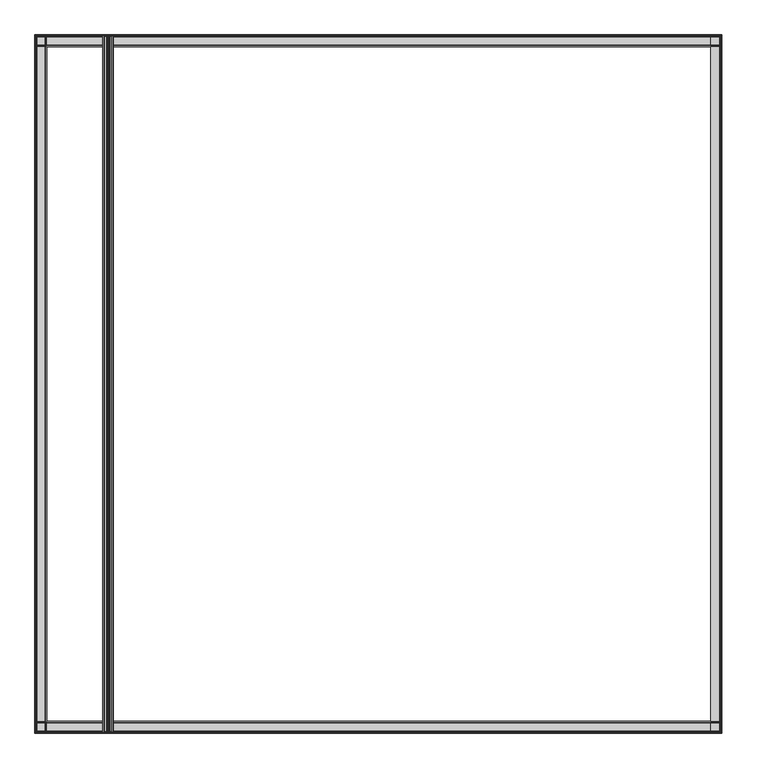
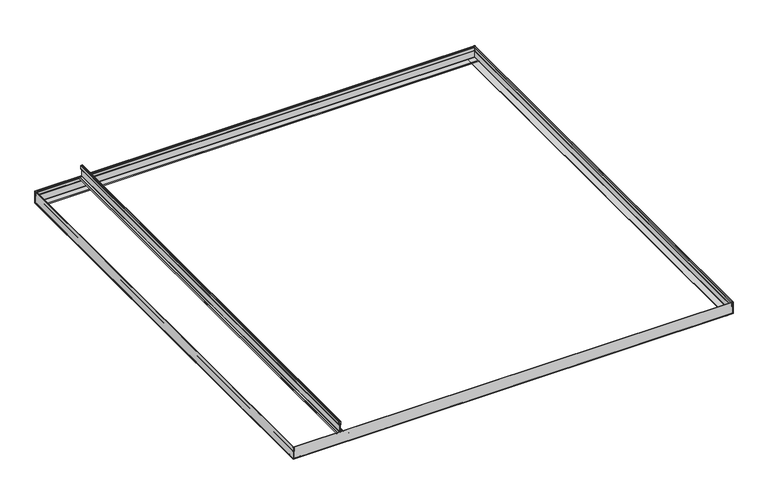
"""IFC4 building model written with IfcOpenShell, lengths in millimetres: proxy geometry, Maxxit_Highland-Ceiling_rev-01 : Maxxit_Highland-Ceiling_Duo."""

from ifc_helpers import new_model, si_unit, point, frame, frame_2d, origin, place, context, project, spatial, polyline, circle_curve, trimmed, segment, composite_curve, outline, extrude, source, transform, mapped, element, save


def generic_models_915ab235(model_context):
    return source(origin(), model_context, "Body", "SweptSolid", [
        extrude(outline(composite_curve([segment(trimmed(circle_curve(frame_2d((26.9918874, 1548.604153)), 1.3969852), [point((28.1400142, 1549.4))], [point((27.9797051, 1547.6163353))], False, "CARTESIAN"), True, "CONTINUOUS"), segment(polyline([(27.9797051, 1547.6163353), (26.0741329, 1545.7107631)]), True, "CONTINUOUS"), segment(trimmed(circle_curve(frame_2d((24.6239538, 1547.1609422)), 2.0508629), [point((26.0741329, 1545.7107631))], [point((24.5674668, 1545.1108573))], False, "CARTESIAN"), True, "CONTINUOUS"), segment(polyline([(24.5674668, 1545.1108573), (14.4241684, 1545.1108573)]), True, "CONTINUOUS"), segment(trimmed(circle_curve(frame_2d((14.4241684, 1546.536229)), 1.4253717), [point((14.4241684, 1545.1108573))], [point((13.0444237, 1546.1784735))], False, "CARTESIAN"), True, "CONTINUOUS"), segment(trimmed(circle_curve(frame_2d((17.0093343, 1546.8659327)), 4.0240672), [point((13.0444237, 1546.1784735))], [point((12.9936183, 1547.1250494))], False, "CARTESIAN"), True, "CONTINUOUS"), segment(trimmed(circle_curve(frame_2d((12.250676, 1547.0814586)), 0.74422), [point((12.9936183, 1547.1250494))], [point((12.3812724, 1547.8141304))], True, "CARTESIAN"), True, "CONTINUOUS"), segment(polyline([(12.3812724, 1547.8141304), (-12.3766547, 1547.8141304)]), True, "CONTINUOUS"), segment(trimmed(circle_curve(frame_2d((-12.3766547, 1546.8574461)), 0.9566843), [point((-12.3766547, 1547.8141304))], [point((-13.333339, 1546.8574461))], True, "CARTESIAN"), True, "CONTINUOUS"), segment(polyline([(-13.333339, 1546.8574461), (-13.333339, 1524.7673801), (-14.3530133, 1524.7673801), (-14.0306827, 1548.1396787)]), True, "CONTINUOUS"), segment(trimmed(circle_curve(frame_2d((-12.8937197, 1548.257)), 1.143), [point((-14.0306827, 1548.1396787))], [point((-12.8937197, 1549.4))], False, "CARTESIAN"), True, "CONTINUOUS"), segment(polyline([(-12.8937197, 1549.4), (28.1400142, 1549.4)]), True, "CONTINUOUS")], self_intersect=False), holes=[composite_curve([segment(trimmed(circle_curve(frame_2d((14.4235428, 1547.9667328)), 0.6350005), [point((14.4235428, 1548.6017333))], [point((13.7885423, 1547.9667328))], True, "CARTESIAN"), True, "CONTINUOUS"), segment(polyline([(13.7885423, 1547.9667328), (13.7885423, 1546.5441244)]), True, "CONTINUOUS"), segment(trimmed(circle_curve(frame_2d((14.4235428, 1546.5441244)), 0.6350005), [point((13.7885423, 1546.5441244))], [point((14.4235428, 1545.909124))], True, "CARTESIAN"), True, "CONTINUOUS"), segment(polyline([(14.4235428, 1545.909124), (24.5674668, 1545.909124)]), True, "CONTINUOUS"), segment(trimmed(circle_curve(frame_2d((24.5329325, 1547.4119671)), 1.5032399), [point((24.5674668, 1545.909124))], [point((25.5128669, 1546.2720291))], True, "CARTESIAN"), True, "CONTINUOUS"), segment(polyline([(25.5128669, 1546.2720291), (27.8425711, 1548.6017333), (14.4235428, 1548.6017333)]), True, "CONTINUOUS")], self_intersect=False)]), frame((0.0, -0.79375, 0.0), z_axis=(0.0, 1.0, 0.0), x_axis=(0.0, 0.0, 1.0)), (0.0, 0.0, 1.0), 1574.8),
        extrude(outline(composite_curve([segment(polyline([(1573.9762526, -14.9820313), (1549.2809145, -14.9820313)]), True, "CONTINUOUS"), segment(trimmed(circle_curve(frame_2d((1549.2809145, -13.4996755)), 1.4823557), [point((1549.2809145, -14.9820313))], [point((1549.6519555, -12.0645075))], False, "CARTESIAN"), True, "CONTINUOUS"), segment(polyline([(1549.6519555, -12.0645075), (1551.1781325, -12.4950092), (1550.9626417, -13.2589482), (1549.4464327, -12.8312583)]), True, "CONTINUOUS"), segment(trimmed(circle_curve(frame_2d((1549.2809145, -13.4996755)), 0.6886057), [point((1549.4464327, -12.8312583))], [point((1549.2809145, -14.1882813))], True, "CARTESIAN"), True, "CONTINUOUS"), segment(polyline([(1549.2809145, -14.1882813), (1573.9762526, -14.1882813), (1573.9762526, -14.9820313)]), True, "CONTINUOUS")], self_intersect=False)), frame((0.0, 0.0, 0.0), z_axis=(1.0, 0.0, 0.0), x_axis=(0.0, 1.0, 0.0)), (0.0, 0.0, 1.0), 1549.4),
        extrude(outline(composite_curve([segment(polyline([(1574.00625, 28.1400142), (1574.00625, -12.8937197)]), True, "CONTINUOUS"), segment(trimmed(circle_curve(frame_2d((1572.86325, -12.8937197)), 1.143), [point((1574.00625, -12.8937197))], [point((1572.7459287, -14.0306827))], False, "CARTESIAN"), True, "CONTINUOUS"), segment(polyline([(1572.7459287, -14.0306827), (1549.3736301, -14.3530133), (1549.3736301, -13.333339), (1571.4636961, -13.333339)]), True, "CONTINUOUS"), segment(trimmed(circle_curve(frame_2d((1571.4636961, -12.3766547)), 0.9566843), [point((1571.4636961, -13.333339))], [point((1572.4203804, -12.3766547))], True, "CARTESIAN"), True, "CONTINUOUS"), segment(polyline([(1572.4203804, -12.3766547), (1572.4203804, 12.3812724)]), True, "CONTINUOUS"), segment(trimmed(circle_curve(frame_2d((1571.6877086, 12.250676)), 0.74422), [point((1572.4203804, 12.3812724))], [point((1571.7312994, 12.9936183))], True, "CARTESIAN"), True, "CONTINUOUS"), segment(trimmed(circle_curve(frame_2d((1571.4721827, 17.0093343)), 4.0240672), [point((1571.7312994, 12.9936183))], [point((1570.7847235, 13.0444237))], False, "CARTESIAN"), True, "CONTINUOUS"), segment(trimmed(circle_curve(frame_2d((1571.142479, 14.4241684)), 1.4253717), [point((1570.7847235, 13.0444237))], [point((1569.7171073, 14.4241684))], False, "CARTESIAN"), True, "CONTINUOUS"), segment(polyline([(1569.7171073, 14.4241684), (1569.7171073, 24.5674668)]), True, "CONTINUOUS"), segment(trimmed(circle_curve(frame_2d((1571.7671922, 24.6239538)), 2.0508629), [point((1569.7171073, 24.5674668))], [point((1570.3170131, 26.0741329))], False, "CARTESIAN"), True, "CONTINUOUS"), segment(polyline([(1570.3170131, 26.0741329), (1572.2225853, 27.9797051)]), True, "CONTINUOUS"), segment(trimmed(circle_curve(frame_2d((1573.210403, 26.9918874)), 1.3969852), [point((1572.2225853, 27.9797051))], [point((1574.00625, 28.1400142))], False, "CARTESIAN"), True, "CONTINUOUS")], self_intersect=False), holes=[composite_curve([segment(polyline([(1573.2079833, 14.4235428), (1573.2079833, 27.8425711), (1570.8782791, 25.5128669)]), True, "CONTINUOUS"), segment(trimmed(circle_curve(frame_2d((1572.0182171, 24.5329325)), 1.5032399), [point((1570.8782791, 25.5128669))], [point((1570.515374, 24.5674668))], True, "CARTESIAN"), True, "CONTINUOUS"), segment(polyline([(1570.515374, 24.5674668), (1570.515374, 14.4235428)]), True, "CONTINUOUS"), segment(trimmed(circle_curve(frame_2d((1571.1503744, 14.4235428)), 0.6350005), [point((1570.515374, 14.4235428))], [point((1571.1503744, 13.7885423))], True, "CARTESIAN"), True, "CONTINUOUS"), segment(polyline([(1571.1503744, 13.7885423), (1572.5729828, 13.7885423)]), True, "CONTINUOUS"), segment(trimmed(circle_curve(frame_2d((1572.5729828, 14.4235428)), 0.6350005), [point((1572.5729828, 13.7885423))], [point((1573.2079833, 14.4235428))], True, "CARTESIAN"), True, "CONTINUOUS")], self_intersect=False)]), frame((0.0, 0.0, 0.0), z_axis=(1.0, 0.0, 0.0), x_axis=(0.0, 1.0, 0.0)), (0.0, 0.0, 1.0), 1549.4),
        extrude(outline(composite_curve([segment(polyline([(-14.9820313, 0.0299974), (-14.9820313, 24.7253355)]), True, "CONTINUOUS"), segment(trimmed(circle_curve(frame_2d((-13.4996755, 24.7253355)), 1.4823557), [point((-14.9820313, 24.7253355))], [point((-12.0645075, 24.3542945))], False, "CARTESIAN"), True, "CONTINUOUS"), segment(polyline([(-12.0645075, 24.3542945), (-12.4950092, 22.8281175), (-13.2589482, 23.0436083), (-12.8312583, 24.5598173)]), True, "CONTINUOUS"), segment(trimmed(circle_curve(frame_2d((-13.4996755, 24.7253355)), 0.6886057), [point((-12.8312583, 24.5598173))], [point((-14.1882813, 24.7253355))], True, "CARTESIAN"), True, "CONTINUOUS"), segment(polyline([(-14.1882813, 24.7253355), (-14.1882813, 0.0299974), (-14.9820313, 0.0299974)]), True, "CONTINUOUS")], self_intersect=False)), frame((0.0, -0.79375, 0.0), z_axis=(0.0, 1.0, 0.0), x_axis=(0.0, 0.0, 1.0)), (0.0, 0.0, 1.0), 1574.8),
        extrude(outline(composite_curve([segment(polyline([(28.1400142, 0.0), (-12.8937197, 0.0)]), True, "CONTINUOUS"), segment(trimmed(circle_curve(frame_2d((-12.8937197, 1.143)), 1.143), [point((-12.8937197, 0.0))], [point((-14.0306827, 1.2603213))], False, "CARTESIAN"), True, "CONTINUOUS"), segment(polyline([(-14.0306827, 1.2603213), (-14.3530133, 24.6326199), (-13.333339, 24.6326199), (-13.333339, 2.5425539)]), True, "CONTINUOUS"), segment(trimmed(circle_curve(frame_2d((-12.3766547, 2.5425539)), 0.9566843), [point((-13.333339, 2.5425539))], [point((-12.3766547, 1.5858696))], True, "CARTESIAN"), True, "CONTINUOUS"), segment(polyline([(-12.3766547, 1.5858696), (12.3812724, 1.5858696)]), True, "CONTINUOUS"), segment(trimmed(circle_curve(frame_2d((12.250676, 2.3185414)), 0.74422), [point((12.3812724, 1.5858696))], [point((12.9936183, 2.2749506))], True, "CARTESIAN"), True, "CONTINUOUS"), segment(trimmed(circle_curve(frame_2d((17.0093343, 2.5340673)), 4.0240672), [point((12.9936183, 2.2749506))], [point((13.0444237, 3.2215265))], False, "CARTESIAN"), True, "CONTINUOUS"), segment(trimmed(circle_curve(frame_2d((14.4241684, 2.863771)), 1.4253717), [point((13.0444237, 3.2215265))], [point((14.4241684, 4.2891427))], False, "CARTESIAN"), True, "CONTINUOUS"), segment(polyline([(14.4241684, 4.2891427), (24.5674668, 4.2891427)]), True, "CONTINUOUS"), segment(trimmed(circle_curve(frame_2d((24.6239538, 2.2390578)), 2.0508629), [point((24.5674668, 4.2891427))], [point((26.0741329, 3.6892369))], False, "CARTESIAN"), True, "CONTINUOUS"), segment(polyline([(26.0741329, 3.6892369), (27.9797051, 1.7836647)]), True, "CONTINUOUS"), segment(trimmed(circle_curve(frame_2d((26.9918874, 0.795847)), 1.3969852), [point((27.9797051, 1.7836647))], [point((28.1400142, 0.0))], False, "CARTESIAN"), True, "CONTINUOUS")], self_intersect=False), holes=[composite_curve([segment(polyline([(14.4235428, 0.7982667), (27.8425711, 0.7982667), (25.5128669, 3.1279709)]), True, "CONTINUOUS"), segment(trimmed(circle_curve(frame_2d((24.5329325, 1.9880329)), 1.5032399), [point((25.5128669, 3.1279709))], [point((24.5674668, 3.490876))], True, "CARTESIAN"), True, "CONTINUOUS"), segment(polyline([(24.5674668, 3.490876), (14.4235428, 3.490876)]), True, "CONTINUOUS"), segment(trimmed(circle_curve(frame_2d((14.4235428, 2.8558756)), 0.6350005), [point((14.4235428, 3.490876))], [point((13.7885423, 2.8558756))], True, "CARTESIAN"), True, "CONTINUOUS"), segment(polyline([(13.7885423, 2.8558756), (13.7885423, 1.4332672)]), True, "CONTINUOUS"), segment(trimmed(circle_curve(frame_2d((14.4235428, 1.4332672)), 0.6350005), [point((13.7885423, 1.4332672))], [point((14.4235428, 0.7982667))], True, "CARTESIAN"), True, "CONTINUOUS")], self_intersect=False)]), frame((0.0, -0.79375, 0.0), z_axis=(0.0, 1.0, 0.0), x_axis=(0.0, 0.0, 1.0)), (0.0, 0.0, 1.0), 1574.8),
        extrude(outline(composite_curve([segment(polyline([(-0.7637526, -14.9820313), (-0.7637526, -14.1882813), (23.9315855, -14.1882813)]), True, "CONTINUOUS"), segment(trimmed(circle_curve(frame_2d((23.9315855, -13.4996755)), 0.6886057), [point((23.9315855, -14.1882813))], [point((23.7660673, -12.8312583))], True, "CARTESIAN"), True, "CONTINUOUS"), segment(polyline([(23.7660673, -12.8312583), (22.2498583, -13.2589482), (22.0343675, -12.4950092), (23.5605445, -12.0645075)]), True, "CONTINUOUS"), segment(trimmed(circle_curve(frame_2d((23.9315855, -13.4996755)), 1.4823557), [point((23.5605445, -12.0645075))], [point((23.9315855, -14.9820313))], False, "CARTESIAN"), True, "CONTINUOUS"), segment(polyline([(23.9315855, -14.9820313), (-0.7637526, -14.9820313)]), True, "CONTINUOUS")], self_intersect=False)), frame((0.0, 0.0, 0.0), z_axis=(1.0, 0.0, 0.0), x_axis=(0.0, 1.0, 0.0)), (0.0, 0.0, 1.0), 1549.4),
        extrude(outline(composite_curve([segment(trimmed(circle_curve(frame_2d((0.002097, 26.9918874)), 1.3969852), [point((-0.79375, 28.1400142))], [point((0.9899147, 27.9797051))], False, "CARTESIAN"), True, "CONTINUOUS"), segment(polyline([(0.9899147, 27.9797051), (2.8954869, 26.0741329)]), True, "CONTINUOUS"), segment(trimmed(circle_curve(frame_2d((1.4453078, 24.6239538)), 2.0508629), [point((2.8954869, 26.0741329))], [point((3.4953927, 24.5674668))], False, "CARTESIAN"), True, "CONTINUOUS"), segment(polyline([(3.4953927, 24.5674668), (3.4953927, 14.4241684)]), True, "CONTINUOUS"), segment(trimmed(circle_curve(frame_2d((2.070021, 14.4241684)), 1.4253717), [point((3.4953927, 14.4241684))], [point((2.4277765, 13.0444237))], False, "CARTESIAN"), True, "CONTINUOUS"), segment(trimmed(circle_curve(frame_2d((1.7403173, 17.0093343)), 4.0240672), [point((2.4277765, 13.0444237))], [point((1.4812006, 12.9936183))], False, "CARTESIAN"), True, "CONTINUOUS"), segment(trimmed(circle_curve(frame_2d((1.5247914, 12.250676)), 0.74422), [point((1.4812006, 12.9936183))], [point((0.7921196, 12.3812724))], True, "CARTESIAN"), True, "CONTINUOUS"), segment(polyline([(0.7921196, 12.3812724), (0.7921196, -12.3766547)]), True, "CONTINUOUS"), segment(trimmed(circle_curve(frame_2d((1.7488039, -12.3766547)), 0.9566843), [point((0.7921196, -12.3766547))], [point((1.7488039, -13.333339))], True, "CARTESIAN"), True, "CONTINUOUS"), segment(polyline([(1.7488039, -13.333339), (23.8388699, -13.333339), (23.8388699, -14.3530133), (0.4665713, -14.0306827)]), True, "CONTINUOUS"), segment(trimmed(circle_curve(frame_2d((0.34925, -12.8937197)), 1.143), [point((0.4665713, -14.0306827))], [point((-0.79375, -12.8937197))], False, "CARTESIAN"), True, "CONTINUOUS"), segment(polyline([(-0.79375, -12.8937197), (-0.79375, 28.1400142)]), True, "CONTINUOUS")], self_intersect=False), holes=[composite_curve([segment(trimmed(circle_curve(frame_2d((0.6395172, 14.4235428)), 0.6350005), [point((0.0045167, 14.4235428))], [point((0.6395172, 13.7885423))], True, "CARTESIAN"), True, "CONTINUOUS"), segment(polyline([(0.6395172, 13.7885423), (2.0621256, 13.7885423)]), True, "CONTINUOUS"), segment(trimmed(circle_curve(frame_2d((2.0621256, 14.4235428)), 0.6350005), [point((2.0621256, 13.7885423))], [point((2.697126, 14.4235428))], True, "CARTESIAN"), True, "CONTINUOUS"), segment(polyline([(2.697126, 14.4235428), (2.697126, 24.5674668)]), True, "CONTINUOUS"), segment(trimmed(circle_curve(frame_2d((1.1942829, 24.5329325)), 1.5032399), [point((2.697126, 24.5674668))], [point((2.3342209, 25.5128669))], True, "CARTESIAN"), True, "CONTINUOUS"), segment(polyline([(2.3342209, 25.5128669), (0.0045167, 27.8425711), (0.0045167, 14.4235428)]), True, "CONTINUOUS")], self_intersect=False)]), frame((0.0, 0.0, 0.0), z_axis=(1.0, 0.0, 0.0), x_axis=(0.0, 1.0, 0.0)), (0.0, 0.0, 1.0), 1549.4),
        extrude(outline(composite_curve([segment(polyline([(26.3453115, 166.2459122), (26.0364605, 174.6159382), (27.0486923, 174.6159382), (27.0486923, 166.8525313)]), True, "CONTINUOUS"), segment(trimmed(circle_curve(frame_2d((28.0053766, 166.8525313)), 0.9566843), [point((27.0486923, 166.8525313))], [point((28.0053766, 165.895847))], True, "CARTESIAN"), True, "CONTINUOUS"), segment(polyline([(28.0053766, 165.895847), (53.7729211, 165.895847)]), True, "CONTINUOUS"), segment(trimmed(circle_curve(frame_2d((53.6130577, 166.6226944)), 0.74422), [point((53.7729211, 165.895847))], [point((54.356, 166.5791036))], True, "CARTESIAN"), True, "CONTINUOUS"), segment(trimmed(circle_curve(frame_2d((58.371716, 166.8382203)), 4.0240672), [point((54.356, 166.5791036))], [point((54.4068054, 167.5256795))], False, "CARTESIAN"), True, "CONTINUOUS"), segment(trimmed(circle_curve(frame_2d((55.7865501, 167.167924)), 1.4253717), [point((54.4068054, 167.5256795))], [point((55.7865501, 168.5932957))], False, "CARTESIAN"), True, "CONTINUOUS"), segment(polyline([(55.7865501, 168.5932957), (64.7585942, 168.5932957)]), True, "CONTINUOUS"), segment(trimmed(circle_curve(frame_2d((64.8150812, 166.5432108)), 2.0508629), [point((64.7585942, 168.5932957))], [point((66.2652603, 167.9933899))], False, "CARTESIAN"), True, "CONTINUOUS"), segment(polyline([(66.2652603, 167.9933899), (68.1708325, 166.0878177)]), True, "CONTINUOUS"), segment(trimmed(circle_curve(frame_2d((67.1830148, 165.1)), 1.3969852), [point((68.1708325, 166.0878177))], [point((68.1708325, 164.1121823))], False, "CARTESIAN"), True, "CONTINUOUS"), segment(polyline([(68.1708325, 164.1121823), (66.2652603, 162.2066101)]), True, "CONTINUOUS"), segment(trimmed(circle_curve(frame_2d((64.8150812, 163.6567892)), 2.0508629), [point((66.2652603, 162.2066101))], [point((64.7585942, 161.6067043))], False, "CARTESIAN"), True, "CONTINUOUS"), segment(polyline([(64.7585942, 161.6067043), (55.7865501, 161.6067043)]), True, "CONTINUOUS"), segment(trimmed(circle_curve(frame_2d((55.7865501, 163.032076)), 1.4253717), [point((55.7865501, 161.6067043))], [point((54.4068054, 162.6743205))], False, "CARTESIAN"), True, "CONTINUOUS"), segment(trimmed(circle_curve(frame_2d((58.371716, 163.3617797)), 4.0240672), [point((54.4068054, 162.6743205))], [point((54.356, 163.6208964))], False, "CARTESIAN"), True, "CONTINUOUS"), segment(trimmed(circle_curve(frame_2d((53.6130577, 163.5773056)), 0.74422), [point((54.356, 163.6208964))], [point((53.7436541, 164.3099774))], True, "CARTESIAN"), True, "CONTINUOUS"), segment(polyline([(53.7436541, 164.3099774), (28.0053766, 164.3099774)]), True, "CONTINUOUS"), segment(trimmed(circle_curve(frame_2d((28.0053766, 163.3532931)), 0.9566843), [point((28.0053766, 164.3099774))], [point((27.0486923, 163.3532931))], True, "CARTESIAN"), True, "CONTINUOUS"), segment(polyline([(27.0486923, 163.3532931), (27.0486923, 154.7569771), (26.0290179, 154.7569771), (26.3453115, 163.9599122)]), True, "CONTINUOUS"), segment(trimmed(circle_curve(frame_2d((27.4883115, 163.9599122)), 1.143), [point((26.3453115, 163.9599122))], [point((27.4883115, 165.1029122))], False, "CARTESIAN"), True, "CONTINUOUS"), segment(trimmed(circle_curve(frame_2d((27.4883115, 166.2459122)), 1.143), [point((27.4883115, 165.1029122))], [point((26.3453115, 166.2459122))], False, "CARTESIAN"), True, "CONTINUOUS")], self_intersect=False), holes=[composite_curve([segment(trimmed(circle_curve(frame_2d((54.058724, 164.0303923)), 1.0922), [point((54.2797221, 165.1))], [point((55.150924, 164.0303923))], False, "CARTESIAN"), True, "CONTINUOUS"), segment(polyline([(55.150924, 164.0303923), (55.150924, 163.0399715)]), True, "CONTINUOUS"), segment(trimmed(circle_curve(frame_2d((55.7859245, 163.0399715)), 0.6350005), [point((55.150924, 163.0399715))], [point((55.7859245, 162.404971))], True, "CARTESIAN"), True, "CONTINUOUS"), segment(polyline([(55.7859245, 162.404971), (64.7585942, 162.404971)]), True, "CONTINUOUS"), segment(trimmed(circle_curve(frame_2d((64.7240599, 163.9078141)), 1.5032399), [point((64.7585942, 162.404971))], [point((65.7039943, 162.7678761))], True, "CARTESIAN"), True, "CONTINUOUS"), segment(polyline([(65.7039943, 162.7678761), (67.6095665, 164.6734483)]), True, "CONTINUOUS"), segment(trimmed(circle_curve(frame_2d((67.1830148, 165.1)), 0.6032352), [point((67.6095665, 164.6734483))], [point((67.6095665, 165.5265517))], True, "CARTESIAN"), True, "CONTINUOUS"), segment(polyline([(67.6095665, 165.5265517), (65.7039943, 167.4321239)]), True, "CONTINUOUS"), segment(trimmed(circle_curve(frame_2d((64.7240599, 166.2921859)), 1.5032399), [point((65.7039943, 167.4321239))], [point((64.7585942, 167.795029))], True, "CARTESIAN"), True, "CONTINUOUS"), segment(polyline([(64.7585942, 167.795029), (55.7859245, 167.795029)]), True, "CONTINUOUS"), segment(trimmed(circle_curve(frame_2d((55.7859245, 167.1600285)), 0.6350005), [point((55.7859245, 167.795029))], [point((55.150924, 167.1600285))], True, "CARTESIAN"), True, "CONTINUOUS"), segment(polyline([(55.150924, 167.1600285), (55.150924, 166.1696077)]), True, "CONTINUOUS"), segment(trimmed(circle_curve(frame_2d((54.058724, 166.1696077)), 1.0922), [point((55.150924, 166.1696077))], [point((54.2797221, 165.1))], False, "CARTESIAN"), True, "CONTINUOUS")], self_intersect=False)]), frame((0.0, -0.79375, 0.0), z_axis=(0.0, 1.0, 0.0), x_axis=(0.0, 0.0, 1.0)), (0.0, 0.0, 1.0), 1574.8),
        extrude(outline(composite_curve([segment(trimmed(circle_curve(frame_2d((26.8823557, 175.5357385)), 1.4823557), [point((25.4, 175.5357385))], [point((28.3175237, 175.1646975))], False, "CARTESIAN"), True, "CONTINUOUS"), segment(polyline([(28.3175237, 175.1646975), (27.887022, 173.6385205), (27.123083, 173.8540113), (27.550773, 175.3702203)]), True, "CONTINUOUS"), segment(trimmed(circle_curve(frame_2d((26.8823557, 175.5357385)), 0.6886057), [point((27.550773, 175.3702203))], [point((26.19375, 175.5357385))], True, "CARTESIAN"), True, "CONTINUOUS"), segment(polyline([(26.19375, 175.5357385), (26.19375, 154.6642615)]), True, "CONTINUOUS"), segment(trimmed(circle_curve(frame_2d((26.8823557, 154.6642615)), 0.6886057), [point((26.19375, 154.6642615))], [point((27.550773, 154.8297797))], True, "CARTESIAN"), True, "CONTINUOUS"), segment(polyline([(27.550773, 154.8297797), (27.123083, 156.3459887), (27.887022, 156.5614795), (28.3175237, 155.0353025)]), True, "CONTINUOUS"), segment(trimmed(circle_curve(frame_2d((26.8823557, 154.6642615)), 1.4823557), [point((28.3175237, 155.0353025))], [point((25.4, 154.6642615))], False, "CARTESIAN"), True, "CONTINUOUS"), segment(polyline([(25.4, 154.6642615), (25.4, 175.5357385)]), True, "CONTINUOUS")], self_intersect=False)), frame((0.0, -0.79375, 0.0), z_axis=(0.0, 1.0, 0.0), x_axis=(0.0, 0.0, 1.0)), (0.0, 0.0, 1.0), 1574.8),
    ])


if __name__ == "__main__":
    model = new_model("IFC4")
    model_context = context("Model", 3, world=origin())
    ifc_project = project(units=[si_unit("LENGTHUNIT", "METRE", prefix="MILLI")], contexts=[model_context])
    site = spatial("IfcSite", under=ifc_project)
    building = spatial("IfcBuilding", under=site)
    placement = place(None, origin())
    generic_models_shape = generic_models_915ab235(model_context)
    element("IfcBuildingElementProxy", 1, Name="Maxxit_Highland-Ceiling_rev-01 : Maxxit_Highland-Ceiling_Duo", ObjectType="Maxxit_Highland-Ceiling_rev-01 : Maxxit_Highland-Ceiling_Duo", at=placement, inside=building, context=model_context, shape_type="MappedRepresentation", body=[
        mapped(generic_models_shape, transform((0.0, 0.0, 0.0), x_axis=(1.0, 0.0, 0.0), y_axis=(0.0, 1.0, 0.0), z_axis=(0.0, 0.0, 1.0))),
    ])
    save(model, "model.ifc")
